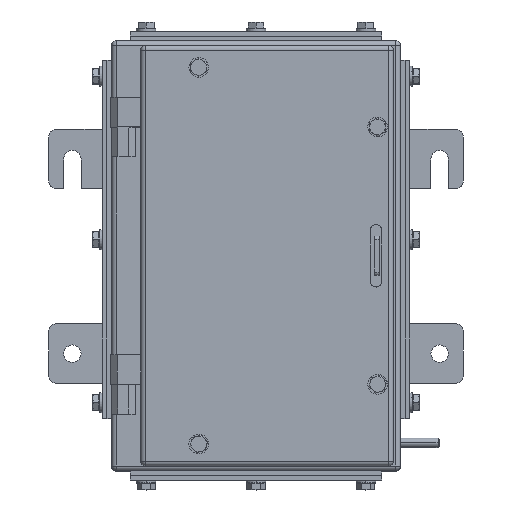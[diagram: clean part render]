
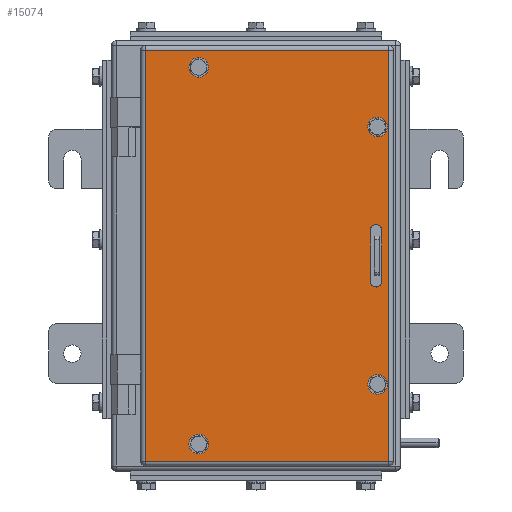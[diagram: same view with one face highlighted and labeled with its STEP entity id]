
A CAD part, top view. The second image highlights one B-rep face of the part: STEP entity #15074.
In plain terms, the highlighted planar face has unit normal (0, 0, 1).
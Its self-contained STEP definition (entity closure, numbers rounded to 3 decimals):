
#118 = LINE ( 'NONE', #15172, #23253 ) ;
#177 = EDGE_CURVE ( 'NONE', #7327, #8209, #11454, .T. ) ;
#246 = CIRCLE ( 'NONE', #18387, 3.5 ) ;
#410 = CARTESIAN_POINT ( 'NONE',  ( 44.5, -120., 18. ) ) ;
#616 = DIRECTION ( 'NONE',  ( 0., 0., 1. ) ) ;
#634 = EDGE_CURVE ( 'NONE', #21684, #22599, #246, .T. ) ;
#1001 = LINE ( 'NONE', #21874, #13726 ) ;
#1115 = EDGE_CURVE ( 'NONE', #6219, #7327, #21575, .T. ) ;
#1321 = CIRCLE ( 'NONE', #10007, 3.5 ) ;
#1833 = CARTESIAN_POINT ( 'NONE',  ( 169., 134., 18. ) ) ;
#2348 = DIRECTION ( 'NONE',  ( 1., 0., 0. ) ) ;
#2410 = AXIS2_PLACEMENT_3D ( 'NONE', #18419, #4955, #5436 ) ;
#2621 = VERTEX_POINT ( 'NONE', #8933 ) ;
#2799 = AXIS2_PLACEMENT_3D ( 'NONE', #4675, #4910, #12233 ) ;
#2865 = EDGE_LOOP ( 'NONE', ( #20933, #6895, #21418, #16434 ) ) ;
#2942 = EDGE_CURVE ( 'NONE', #24112, #13776, #1001, .T. ) ;
#3028 = DIRECTION ( 'NONE',  ( 0., 0., 1. ) ) ;
#3114 = AXIS2_PLACEMENT_3D ( 'NONE', #4669, #12227, #10617 ) ;
#3201 = FACE_BOUND ( 'NONE', #19151, .T. ) ;
#3395 = AXIS2_PLACEMENT_3D ( 'NONE', #10434, #8815, #9051 ) ;
#3456 = EDGE_CURVE ( 'NONE', #18191, #6566, #18112, .T. ) ;
#3778 = CARTESIAN_POINT ( 'NONE',  ( 165.5, -82., 18. ) ) ;
#3835 = EDGE_CURVE ( 'NONE', #2621, #16281, #15669, .T. ) ;
#4463 = ORIENTED_EDGE ( 'NONE', *, *, #11489, .T. ) ;
#4608 = EDGE_CURVE ( 'NONE', #19245, #24112, #5545, .T. ) ;
#4613 = EDGE_CURVE ( 'NONE', #22216, #6219, #118, .T. ) ;
#4669 = CARTESIAN_POINT ( 'NONE',  ( 48., 120., 18. ) ) ;
#4675 = CARTESIAN_POINT ( 'NONE',  ( 162., -82., 18. ) ) ;
#4814 = FACE_BOUND ( 'NONE', #12240, .T. ) ;
#4910 = DIRECTION ( 'NONE',  ( 0., 0., 1. ) ) ;
#4955 = DIRECTION ( 'NONE',  ( 0., 0., 1. ) ) ;
#5099 = EDGE_CURVE ( 'NONE', #8430, #12411, #11499, .T. ) ;
#5120 = CARTESIAN_POINT ( 'NONE',  ( 162., 82., 18. ) ) ;
#5436 = DIRECTION ( 'NONE',  ( 1., 0., 0. ) ) ;
#5545 = LINE ( 'NONE', #1833, #6272 ) ;
#5946 = CIRCLE ( 'NONE', #2410, 3.5 ) ;
#5966 = EDGE_LOOP ( 'NONE', ( #12387, #16952 ) ) ;
#5992 = DIRECTION ( 'NONE',  ( 0., -1., 0. ) ) ;
#6087 = CARTESIAN_POINT ( 'NONE',  ( 158.5, 82., 18. ) ) ;
#6219 = VERTEX_POINT ( 'NONE', #9895 ) ;
#6272 = VECTOR ( 'NONE', #17037, 1000. ) ;
#6494 = DIRECTION ( 'NONE',  ( 0., -1., 0. ) ) ;
#6566 = VERTEX_POINT ( 'NONE', #19322 ) ;
#6716 = AXIS2_PLACEMENT_3D ( 'NONE', #10275, #17787, #8409 ) ;
#6895 = ORIENTED_EDGE ( 'NONE', *, *, #1115, .F. ) ;
#6900 = PLANE ( 'NONE',  #6716 ) ;
#6936 = DIRECTION ( 'NONE',  ( 0., 0., 1. ) ) ;
#7327 = VERTEX_POINT ( 'NONE', #9271 ) ;
#7721 = CARTESIAN_POINT ( 'NONE',  ( 157.5, 16.5, 18. ) ) ;
#7731 = AXIS2_PLACEMENT_3D ( 'NONE', #12755, #6936, #20016 ) ;
#8160 = EDGE_CURVE ( 'NONE', #16281, #2621, #1321, .T. ) ;
#8209 = VERTEX_POINT ( 'NONE', #18008 ) ;
#8409 = DIRECTION ( 'NONE',  ( -1., 0., 0. ) ) ;
#8430 = VERTEX_POINT ( 'NONE', #19789 ) ;
#8635 = EDGE_CURVE ( 'NONE', #8209, #22216, #5946, .T. ) ;
#8657 = FACE_OUTER_BOUND ( 'NONE', #23075, .T. ) ;
#8815 = DIRECTION ( 'NONE',  ( 0., 0., 1. ) ) ;
#8933 = CARTESIAN_POINT ( 'NONE',  ( 51.5, -120., 18. ) ) ;
#8941 = CIRCLE ( 'NONE', #12867, 3.5 ) ;
#8968 = VERTEX_POINT ( 'NONE', #16058 ) ;
#9051 = DIRECTION ( 'NONE',  ( 1., 0., 0. ) ) ;
#9236 = ORIENTED_EDGE ( 'NONE', *, *, #634, .F. ) ;
#9271 = CARTESIAN_POINT ( 'NONE',  ( 157.5, 16.5, 18. ) ) ;
#9582 = DIRECTION ( 'NONE',  ( 0., 0., 1. ) ) ;
#9775 = CARTESIAN_POINT ( 'NONE',  ( 172., -131., 18. ) ) ;
#9895 = CARTESIAN_POINT ( 'NONE',  ( 164.5, 16.5, 18. ) ) ;
#9980 = CARTESIAN_POINT ( 'NONE',  ( 14., 134., 18. ) ) ;
#10007 = AXIS2_PLACEMENT_3D ( 'NONE', #23828, #18137, #16514 ) ;
#10275 = CARTESIAN_POINT ( 'NONE',  ( 172., 134., 18. ) ) ;
#10434 = CARTESIAN_POINT ( 'NONE',  ( 161., 16.5, 18. ) ) ;
#10509 = FACE_BOUND ( 'NONE', #2865, .T. ) ;
#10617 = DIRECTION ( 'NONE',  ( 1., 0., 0. ) ) ;
#11454 = LINE ( 'NONE', #7721, #16133 ) ;
#11489 = EDGE_CURVE ( 'NONE', #8968, #19245, #13504, .T. ) ;
#11499 = CIRCLE ( 'NONE', #20141, 3.5 ) ;
#12227 = DIRECTION ( 'NONE',  ( 0., 0., 1. ) ) ;
#12233 = DIRECTION ( 'NONE',  ( 1., 0., 0. ) ) ;
#12240 = EDGE_LOOP ( 'NONE', ( #20142, #14282 ) ) ;
#12339 = VECTOR ( 'NONE', #6494, 1000. ) ;
#12387 = ORIENTED_EDGE ( 'NONE', *, *, #16504, .F. ) ;
#12411 = VERTEX_POINT ( 'NONE', #3778 ) ;
#12755 = CARTESIAN_POINT ( 'NONE',  ( 48., 120., 18. ) ) ;
#12867 = AXIS2_PLACEMENT_3D ( 'NONE', #13856, #616, #2348 ) ;
#13504 = LINE ( 'NONE', #9775, #18053 ) ;
#13726 = VECTOR ( 'NONE', #16552, 1000. ) ;
#13776 = VERTEX_POINT ( 'NONE', #14325 ) ;
#13856 = CARTESIAN_POINT ( 'NONE',  ( 162., 82., 18. ) ) ;
#13945 = ORIENTED_EDGE ( 'NONE', *, *, #5099, .F. ) ;
#14038 = DIRECTION ( 'NONE',  ( 1., 0., 0. ) ) ;
#14282 = ORIENTED_EDGE ( 'NONE', *, *, #8160, .F. ) ;
#14290 = DIRECTION ( 'NONE',  ( 1., 0., 0. ) ) ;
#14325 = CARTESIAN_POINT ( 'NONE',  ( 14., 131., 18. ) ) ;
#14756 = DIRECTION ( 'NONE',  ( 0., 0., 1. ) ) ;
#14879 = AXIS2_PLACEMENT_3D ( 'NONE', #23550, #3028, #14038 ) ;
#15074 = ADVANCED_FACE ( 'NONE', ( #16410, #3201, #10509, #4814, #18161, #8657 ), #6900, .F. ) ;
#15172 = CARTESIAN_POINT ( 'NONE',  ( 164.5, 16.5, 18. ) ) ;
#15247 = CARTESIAN_POINT ( 'NONE',  ( 162., -82., 18. ) ) ;
#15669 = CIRCLE ( 'NONE', #14879, 3.5 ) ;
#16058 = CARTESIAN_POINT ( 'NONE',  ( 14., -131., 18. ) ) ;
#16133 = VECTOR ( 'NONE', #5992, 1000. ) ;
#16281 = VERTEX_POINT ( 'NONE', #410 ) ;
#16410 = FACE_BOUND ( 'NONE', #17127, .T. ) ;
#16434 = ORIENTED_EDGE ( 'NONE', *, *, #8635, .F. ) ;
#16504 = EDGE_CURVE ( 'NONE', #6566, #18191, #21928, .T. ) ;
#16514 = DIRECTION ( 'NONE',  ( 1., 0., 0. ) ) ;
#16552 = DIRECTION ( 'NONE',  ( -1., 0., 0. ) ) ;
#16730 = ORIENTED_EDGE ( 'NONE', *, *, #23662, .T. ) ;
#16829 = EDGE_CURVE ( 'NONE', #22599, #21684, #8941, .T. ) ;
#16952 = ORIENTED_EDGE ( 'NONE', *, *, #3456, .F. ) ;
#17037 = DIRECTION ( 'NONE',  ( 0., 1., 0. ) ) ;
#17081 = ORIENTED_EDGE ( 'NONE', *, *, #4608, .T. ) ;
#17127 = EDGE_LOOP ( 'NONE', ( #17595, #9236 ) ) ;
#17223 = DIRECTION ( 'NONE',  ( 1., 0., 0. ) ) ;
#17577 = CARTESIAN_POINT ( 'NONE',  ( 169., 131., 18. ) ) ;
#17595 = ORIENTED_EDGE ( 'NONE', *, *, #16829, .F. ) ;
#17641 = CARTESIAN_POINT ( 'NONE',  ( 164.5, -16.5, 18. ) ) ;
#17787 = DIRECTION ( 'NONE',  ( 0., 0., -1. ) ) ;
#17978 = ORIENTED_EDGE ( 'NONE', *, *, #2942, .T. ) ;
#18008 = CARTESIAN_POINT ( 'NONE',  ( 157.5, -16.5, 18. ) ) ;
#18053 = VECTOR ( 'NONE', #22505, 1000. ) ;
#18112 = CIRCLE ( 'NONE', #3114, 3.5 ) ;
#18137 = DIRECTION ( 'NONE',  ( 0., 0., 1. ) ) ;
#18161 = FACE_BOUND ( 'NONE', #5966, .T. ) ;
#18191 = VERTEX_POINT ( 'NONE', #22753 ) ;
#18387 = AXIS2_PLACEMENT_3D ( 'NONE', #5120, #14756, #14290 ) ;
#18419 = CARTESIAN_POINT ( 'NONE',  ( 161., -16.5, 18. ) ) ;
#19000 = CARTESIAN_POINT ( 'NONE',  ( 169., -131., 18. ) ) ;
#19151 = EDGE_LOOP ( 'NONE', ( #21720, #13945 ) ) ;
#19245 = VERTEX_POINT ( 'NONE', #19000 ) ;
#19322 = CARTESIAN_POINT ( 'NONE',  ( 51.5, 120., 18. ) ) ;
#19789 = CARTESIAN_POINT ( 'NONE',  ( 158.5, -82., 18. ) ) ;
#20016 = DIRECTION ( 'NONE',  ( 1., 0., 0. ) ) ;
#20141 = AXIS2_PLACEMENT_3D ( 'NONE', #15247, #9582, #17223 ) ;
#20142 = ORIENTED_EDGE ( 'NONE', *, *, #3835, .F. ) ;
#20933 = ORIENTED_EDGE ( 'NONE', *, *, #177, .F. ) ;
#20965 = CARTESIAN_POINT ( 'NONE',  ( 165.5, 82., 18. ) ) ;
#21418 = ORIENTED_EDGE ( 'NONE', *, *, #4613, .F. ) ;
#21575 = CIRCLE ( 'NONE', #3395, 3.5 ) ;
#21684 = VERTEX_POINT ( 'NONE', #6087 ) ;
#21720 = ORIENTED_EDGE ( 'NONE', *, *, #22158, .F. ) ;
#21874 = CARTESIAN_POINT ( 'NONE',  ( 172., 131., 18. ) ) ;
#21928 = CIRCLE ( 'NONE', #7731, 3.5 ) ;
#22139 = CIRCLE ( 'NONE', #2799, 3.5 ) ;
#22158 = EDGE_CURVE ( 'NONE', #12411, #8430, #22139, .T. ) ;
#22216 = VERTEX_POINT ( 'NONE', #17641 ) ;
#22505 = DIRECTION ( 'NONE',  ( 1., 0., 0. ) ) ;
#22599 = VERTEX_POINT ( 'NONE', #20965 ) ;
#22719 = DIRECTION ( 'NONE',  ( 0., 1., 0. ) ) ;
#22753 = CARTESIAN_POINT ( 'NONE',  ( 44.5, 120., 18. ) ) ;
#23075 = EDGE_LOOP ( 'NONE', ( #4463, #17081, #17978, #16730 ) ) ;
#23253 = VECTOR ( 'NONE', #22719, 1000. ) ;
#23549 = LINE ( 'NONE', #9980, #12339 ) ;
#23550 = CARTESIAN_POINT ( 'NONE',  ( 48., -120., 18. ) ) ;
#23662 = EDGE_CURVE ( 'NONE', #13776, #8968, #23549, .T. ) ;
#23828 = CARTESIAN_POINT ( 'NONE',  ( 48., -120., 18. ) ) ;
#24112 = VERTEX_POINT ( 'NONE', #17577 ) ;
